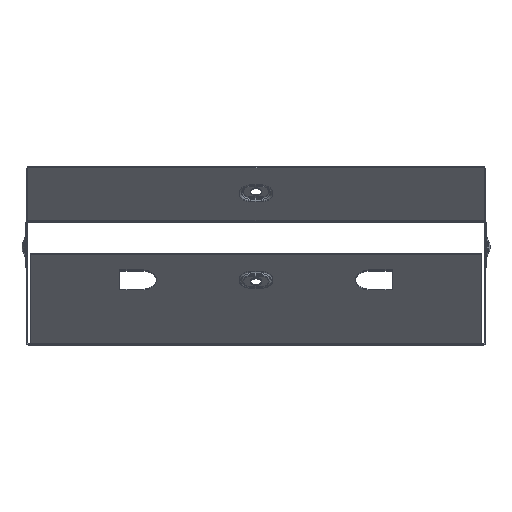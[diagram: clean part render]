
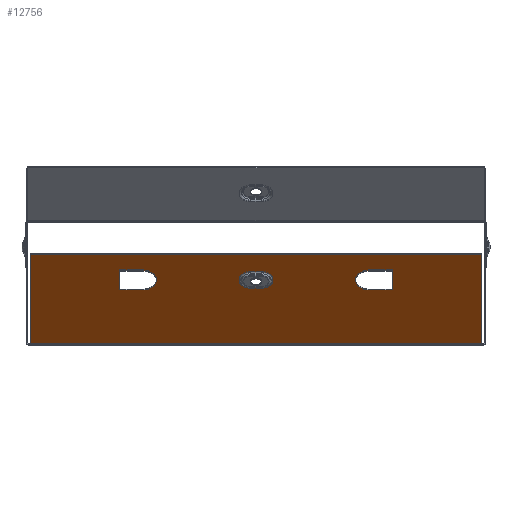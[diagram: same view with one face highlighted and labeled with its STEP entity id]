
A CAD part, top view. The second image highlights one B-rep face of the part: STEP entity #12756.
In plain terms, the highlighted planar face has unit normal (0, -0.707, 0.707).
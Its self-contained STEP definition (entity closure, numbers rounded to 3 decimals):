
#29 = DIRECTION ( 'NONE',  ( 0., 0.707, -0.707 ) ) ;
#37 = DIRECTION ( 'NONE',  ( 0., 0.707, -0.707 ) ) ;
#522 = CARTESIAN_POINT ( 'NONE',  ( 148.2, -80.8, 96. ) ) ;
#583 = DIRECTION ( 'NONE',  ( -1., 0., 0. ) ) ;
#660 = LINE ( 'NONE', #10522, #12203 ) ;
#678 = ORIENTED_EDGE ( 'NONE', *, *, #12503, .F. ) ;
#768 = CARTESIAN_POINT ( 'NONE',  ( -89., -32.399, 144.401 ) ) ;
#874 = DIRECTION ( 'NONE',  ( 0., 0.707, 0.707 ) ) ;
#912 = DIRECTION ( 'NONE',  ( 0., -0.707, -0.707 ) ) ;
#981 = CARTESIAN_POINT ( 'NONE',  ( -74., -45.126, 131.674 ) ) ;
#1097 = FACE_BOUND ( 'NONE', #6509, .T. ) ;
#1114 = CARTESIAN_POINT ( 'NONE',  ( 89., -45.126, 131.674 ) ) ;
#1163 = AXIS2_PLACEMENT_3D ( 'NONE', #522, #9783, #11988 ) ;
#1269 = CARTESIAN_POINT ( 'NONE',  ( 74., -45.126, 131.674 ) ) ;
#1361 = VERTEX_POINT ( 'NONE', #12002 ) ;
#1478 = ORIENTED_EDGE ( 'NONE', *, *, #3731, .T. ) ;
#1596 = DIRECTION ( 'NONE',  ( 0., 0.707, -0.707 ) ) ;
#1655 = EDGE_LOOP ( 'NONE', ( #2901, #678, #11738, #5377 ) ) ;
#1791 = CIRCLE ( 'NONE', #8500, 7.598 ) ;
#1840 = DIRECTION ( 'NONE',  ( -1., 0., 0. ) ) ;
#1852 = VERTEX_POINT ( 'NONE', #4840 ) ;
#2095 = CARTESIAN_POINT ( 'NONE',  ( 89., -32.399, 144.401 ) ) ;
#2116 = ORIENTED_EDGE ( 'NONE', *, *, #7758, .T. ) ;
#2358 = CARTESIAN_POINT ( 'NONE',  ( -74., -45.126, 131.674 ) ) ;
#2463 = ORIENTED_EDGE ( 'NONE', *, *, #9195, .T. ) ;
#2696 = DIRECTION ( 'NONE',  ( 0., 0.707, 0.707 ) ) ;
#2727 = CARTESIAN_POINT ( 'NONE',  ( -89., -32.399, 144.401 ) ) ;
#2825 = CARTESIAN_POINT ( 'NONE',  ( 147.299, -21.792, 155.008 ) ) ;
#2901 = ORIENTED_EDGE ( 'NONE', *, *, #14021, .T. ) ;
#2990 = AXIS2_PLACEMENT_3D ( 'NONE', #3269, #37, #8013 ) ;
#3039 = VECTOR ( 'NONE', #4523, 1000. ) ;
#3047 = VERTEX_POINT ( 'NONE', #981 ) ;
#3195 = VERTEX_POINT ( 'NONE', #7002 ) ;
#3269 = CARTESIAN_POINT ( 'NONE',  ( -74., -38.763, 138.037 ) ) ;
#3328 = VECTOR ( 'NONE', #874, 1000. ) ;
#3547 = DIRECTION ( 'NONE',  ( 0., 0.707, 0.707 ) ) ;
#3559 = VERTEX_POINT ( 'NONE', #11051 ) ;
#3571 = LINE ( 'NONE', #1269, #3039 ) ;
#3581 = ORIENTED_EDGE ( 'NONE', *, *, #6835, .T. ) ;
#3630 = ORIENTED_EDGE ( 'NONE', *, *, #9011, .T. ) ;
#3718 = DIRECTION ( 'NONE',  ( 1., 0., 0. ) ) ;
#3731 = EDGE_CURVE ( 'NONE', #3047, #3559, #7660, .T. ) ;
#3789 = CARTESIAN_POINT ( 'NONE',  ( -147.299, -80.8, 96. ) ) ;
#4042 = VECTOR ( 'NONE', #583, 1000. ) ;
#4067 = VECTOR ( 'NONE', #13162, 1000. ) ;
#4464 = VERTEX_POINT ( 'NONE', #1114 ) ;
#4523 = DIRECTION ( 'NONE',  ( -1., 0., 0. ) ) ;
#4840 = CARTESIAN_POINT ( 'NONE',  ( 3.5, -44.135, 132.665 ) ) ;
#4868 = DIRECTION ( 'NONE',  ( 0., 0.707, 0.707 ) ) ;
#4950 = VECTOR ( 'NONE', #9514, 1000. ) ;
#5033 = EDGE_CURVE ( 'NONE', #12542, #3047, #10323, .T. ) ;
#5268 = VECTOR ( 'NONE', #912, 1000. ) ;
#5338 = LINE ( 'NONE', #12393, #10473 ) ;
#5377 = ORIENTED_EDGE ( 'NONE', *, *, #8241, .T. ) ;
#5656 = LINE ( 'NONE', #768, #3328 ) ;
#5705 = ORIENTED_EDGE ( 'NONE', *, *, #13174, .T. ) ;
#5856 = CARTESIAN_POINT ( 'NONE',  ( -3.5, -44.135, 132.665 ) ) ;
#6509 = EDGE_LOOP ( 'NONE', ( #3581, #13037, #10136, #5705 ) ) ;
#6807 = VERTEX_POINT ( 'NONE', #2727 ) ;
#6835 = EDGE_CURVE ( 'NONE', #12611, #10345, #7976, .T. ) ;
#6898 = EDGE_CURVE ( 'NONE', #1852, #14291, #13593, .T. ) ;
#6965 = EDGE_CURVE ( 'NONE', #3559, #6807, #5656, .T. ) ;
#7002 = CARTESIAN_POINT ( 'NONE',  ( 74., -32.399, 144.401 ) ) ;
#7090 = DIRECTION ( 'NONE',  ( 0., 0.707, -0.707 ) ) ;
#7139 = VECTOR ( 'NONE', #13875, 1000. ) ;
#7291 = VECTOR ( 'NONE', #1840, 1000. ) ;
#7307 = VERTEX_POINT ( 'NONE', #13456 ) ;
#7332 = LINE ( 'NONE', #10186, #12983 ) ;
#7336 = PLANE ( 'NONE',  #1163 ) ;
#7553 = CARTESIAN_POINT ( 'NONE',  ( -147.299, -21.792, 155.008 ) ) ;
#7660 = LINE ( 'NONE', #2358, #7291 ) ;
#7758 = EDGE_CURVE ( 'NONE', #4464, #7307, #3571, .T. ) ;
#7936 = CIRCLE ( 'NONE', #7940, 7.598 ) ;
#7940 = AXIS2_PLACEMENT_3D ( 'NONE', #12482, #29, #8008 ) ;
#7976 = LINE ( 'NONE', #12732, #4950 ) ;
#8008 = DIRECTION ( 'NONE',  ( 0., 0.707, 0.707 ) ) ;
#8013 = DIRECTION ( 'NONE',  ( 0., -0.707, -0.707 ) ) ;
#8059 = EDGE_CURVE ( 'NONE', #6807, #12542, #5338, .T. ) ;
#8241 = EDGE_CURVE ( 'NONE', #9773, #13667, #9244, .T. ) ;
#8415 = CARTESIAN_POINT ( 'NONE',  ( -3.5, -38.763, 138.037 ) ) ;
#8500 = AXIS2_PLACEMENT_3D ( 'NONE', #8415, #1596, #2696 ) ;
#8565 = FACE_OUTER_BOUND ( 'NONE', #1655, .T. ) ;
#8804 = LINE ( 'NONE', #10954, #5268 ) ;
#9011 = EDGE_CURVE ( 'NONE', #3195, #9935, #660, .T. ) ;
#9195 = EDGE_CURVE ( 'NONE', #7307, #3195, #10427, .T. ) ;
#9244 = LINE ( 'NONE', #12718, #4067 ) ;
#9409 = EDGE_LOOP ( 'NONE', ( #11203, #10465, #13996, #1478 ) ) ;
#9514 = DIRECTION ( 'NONE',  ( 1., 0., 0. ) ) ;
#9539 = VERTEX_POINT ( 'NONE', #10903 ) ;
#9773 = VERTEX_POINT ( 'NONE', #2825 ) ;
#9783 = DIRECTION ( 'NONE',  ( 0., 0.707, -0.707 ) ) ;
#9935 = VERTEX_POINT ( 'NONE', #2095 ) ;
#10136 = ORIENTED_EDGE ( 'NONE', *, *, #6898, .T. ) ;
#10186 = CARTESIAN_POINT ( 'NONE',  ( 148.2, -80.273, 96.527 ) ) ;
#10323 = CIRCLE ( 'NONE', #2990, 9. ) ;
#10345 = VERTEX_POINT ( 'NONE', #14043 ) ;
#10350 = CARTESIAN_POINT ( 'NONE',  ( 147.299, -81.015, 95.785 ) ) ;
#10427 = CIRCLE ( 'NONE', #10558, 9. ) ;
#10465 = ORIENTED_EDGE ( 'NONE', *, *, #8059, .T. ) ;
#10473 = VECTOR ( 'NONE', #11358, 1000. ) ;
#10522 = CARTESIAN_POINT ( 'NONE',  ( 74., -32.399, 144.401 ) ) ;
#10558 = AXIS2_PLACEMENT_3D ( 'NONE', #12712, #7090, #4868 ) ;
#10903 = CARTESIAN_POINT ( 'NONE',  ( 147.299, -80.273, 96.527 ) ) ;
#10954 = CARTESIAN_POINT ( 'NONE',  ( 89., -32.399, 144.401 ) ) ;
#11051 = CARTESIAN_POINT ( 'NONE',  ( -89., -45.126, 131.674 ) ) ;
#11093 = EDGE_CURVE ( 'NONE', #10345, #1852, #7936, .T. ) ;
#11184 = EDGE_CURVE ( 'NONE', #9935, #4464, #8804, .T. ) ;
#11203 = ORIENTED_EDGE ( 'NONE', *, *, #6965, .T. ) ;
#11358 = DIRECTION ( 'NONE',  ( 1., 0., 0. ) ) ;
#11394 = FACE_BOUND ( 'NONE', #12427, .T. ) ;
#11452 = EDGE_CURVE ( 'NONE', #9539, #9773, #12675, .T. ) ;
#11738 = ORIENTED_EDGE ( 'NONE', *, *, #11452, .T. ) ;
#11988 = DIRECTION ( 'NONE',  ( 0., 0.707, 0.707 ) ) ;
#12002 = CARTESIAN_POINT ( 'NONE',  ( -147.299, -80.273, 96.527 ) ) ;
#12203 = VECTOR ( 'NONE', #3718, 1000. ) ;
#12393 = CARTESIAN_POINT ( 'NONE',  ( -74., -32.399, 144.401 ) ) ;
#12427 = EDGE_LOOP ( 'NONE', ( #2116, #2463, #3630, #12895 ) ) ;
#12482 = CARTESIAN_POINT ( 'NONE',  ( 3.5, -38.763, 138.037 ) ) ;
#12503 = EDGE_CURVE ( 'NONE', #9539, #1361, #7332, .T. ) ;
#12539 = DIRECTION ( 'NONE',  ( -1., 0., 0. ) ) ;
#12542 = VERTEX_POINT ( 'NONE', #14686 ) ;
#12611 = VERTEX_POINT ( 'NONE', #13843 ) ;
#12675 = LINE ( 'NONE', #10350, #13884 ) ;
#12712 = CARTESIAN_POINT ( 'NONE',  ( 74., -38.763, 138.037 ) ) ;
#12718 = CARTESIAN_POINT ( 'NONE',  ( 148.2, -21.792, 155.008 ) ) ;
#12732 = CARTESIAN_POINT ( 'NONE',  ( 3.5, -33.39, 143.41 ) ) ;
#12756 = ADVANCED_FACE ( 'NONE', ( #11394, #14561, #1097, #8565 ), #7336, .F. ) ;
#12895 = ORIENTED_EDGE ( 'NONE', *, *, #11184, .T. ) ;
#12983 = VECTOR ( 'NONE', #12539, 1000. ) ;
#13037 = ORIENTED_EDGE ( 'NONE', *, *, #11093, .T. ) ;
#13162 = DIRECTION ( 'NONE',  ( -1., 0., 0. ) ) ;
#13174 = EDGE_CURVE ( 'NONE', #14291, #12611, #1791, .T. ) ;
#13456 = CARTESIAN_POINT ( 'NONE',  ( 74., -45.126, 131.674 ) ) ;
#13593 = LINE ( 'NONE', #14293, #4042 ) ;
#13667 = VERTEX_POINT ( 'NONE', #7553 ) ;
#13836 = LINE ( 'NONE', #3789, #7139 ) ;
#13843 = CARTESIAN_POINT ( 'NONE',  ( -3.5, -33.39, 143.41 ) ) ;
#13875 = DIRECTION ( 'NONE',  ( 0., -0.707, -0.707 ) ) ;
#13884 = VECTOR ( 'NONE', #3547, 1000. ) ;
#13996 = ORIENTED_EDGE ( 'NONE', *, *, #5033, .T. ) ;
#14021 = EDGE_CURVE ( 'NONE', #13667, #1361, #13836, .T. ) ;
#14043 = CARTESIAN_POINT ( 'NONE',  ( 3.5, -33.39, 143.41 ) ) ;
#14291 = VERTEX_POINT ( 'NONE', #5856 ) ;
#14293 = CARTESIAN_POINT ( 'NONE',  ( 3.5, -44.135, 132.665 ) ) ;
#14561 = FACE_BOUND ( 'NONE', #9409, .T. ) ;
#14686 = CARTESIAN_POINT ( 'NONE',  ( -74., -32.399, 144.401 ) ) ;
